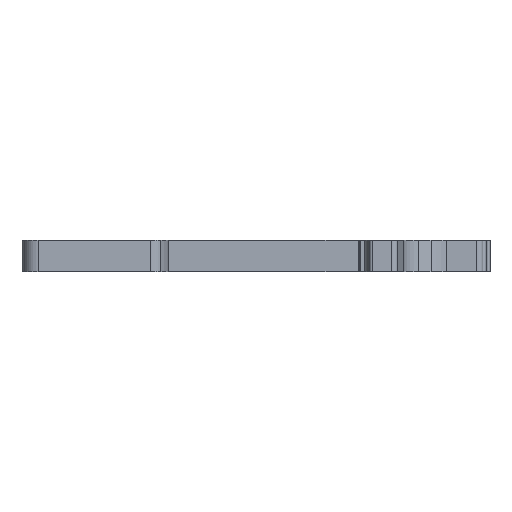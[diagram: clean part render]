
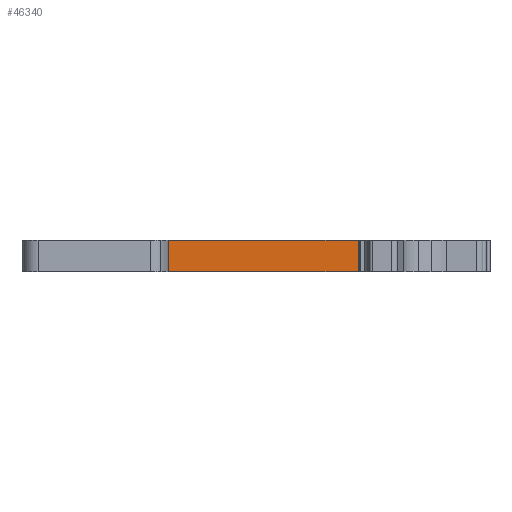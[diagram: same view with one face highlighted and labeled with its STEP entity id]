
A CAD part, front view. The second image highlights one B-rep face of the part: STEP entity #46340.
In plain terms, the highlighted planar face has unit normal (0, -1, 0).
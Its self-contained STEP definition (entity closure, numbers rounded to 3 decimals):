
#530=CARTESIAN_POINT('',(15.1,0.,0.));
#540=VERTEX_POINT('',#530);
#570=CARTESIAN_POINT('',(1.738,0.,
0.));
#580=DIRECTION('',(1.,0.,0.));
#590=VECTOR('',#580,1.);
#600=LINE('',#570,#590);
#610=CARTESIAN_POINT('',(-16.3,0.,
0.));
#620=VERTEX_POINT('',#610);
#630=EDGE_CURVE('',#620,#540,#600,.T.);
#23210=CARTESIAN_POINT('',(-16.3,0.,-5.2)
);
#23220=VERTEX_POINT('',#23210);
#23250=CARTESIAN_POINT('',(1.738,0.,-5.2))
;
#23260=DIRECTION('',(1.,0.,0.));
#23270=VECTOR('',#23260,1.);
#23280=LINE('',#23250,#23270);
#23290=CARTESIAN_POINT('',(15.1,0.,-5.2)
);
#23300=VERTEX_POINT('',#23290);
#23310=EDGE_CURVE('',#23220,#23300,#23280,.T.);
#46130=CARTESIAN_POINT('',(17.5,0.,0.));
#46140=DIRECTION('',(-0.,1.,0.));
#46150=DIRECTION('',(1.,0.,0.));
#46160=AXIS2_PLACEMENT_3D('',#46130,#46140,#46150);
#46170=PLANE('',#46160);
#46180=CARTESIAN_POINT('',(-16.3,0.,
0.));
#46190=DIRECTION('',(0.,0.,-1.));
#46200=VECTOR('',#46190,1.);
#46210=LINE('',#46180,#46200);
#46220=EDGE_CURVE('',#620,#23220,#46210,.T.);
#46230=ORIENTED_EDGE('',*,*,#46220,.T.);
#46240=ORIENTED_EDGE('',*,*,#630,.F.);
#46250=CARTESIAN_POINT('',(15.1,0.,0.));
#46260=DIRECTION('',(0.,0.,-1.));
#46270=VECTOR('',#46260,1.);
#46280=LINE('',#46250,#46270);
#46290=EDGE_CURVE('',#540,#23300,#46280,.T.);
#46300=ORIENTED_EDGE('',*,*,#46290,.F.);
#46310=ORIENTED_EDGE('',*,*,#23310,.T.);
#46320=EDGE_LOOP('',(#46310,#46300,#46240,#46230));
#46330=FACE_OUTER_BOUND('',#46320,.T.);
#46340=ADVANCED_FACE('',(#46330),#46170,.F.);
